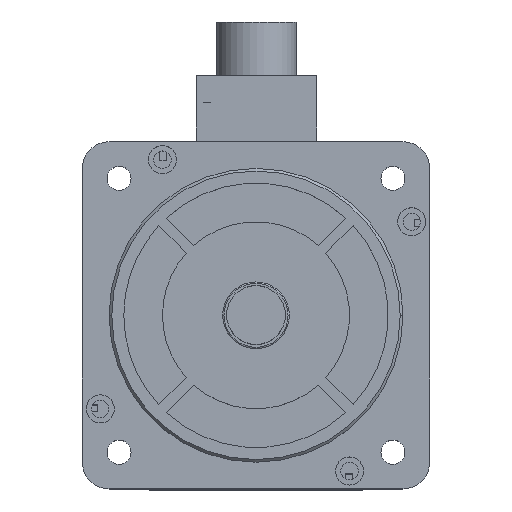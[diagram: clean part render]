
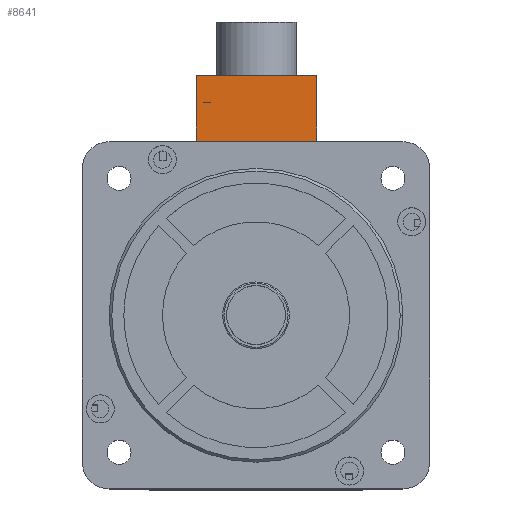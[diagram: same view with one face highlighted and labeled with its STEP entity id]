
A CAD part, top view. The second image highlights one B-rep face of the part: STEP entity #8641.
In plain terms, the highlighted planar face has unit normal (0, 0, 1) as drawn and (0, -1, 0) by its records, which use the part's own axes.
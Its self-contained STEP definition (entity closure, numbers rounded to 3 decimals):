
#747 = VERTEX_POINT ( 'NONE', #18959 ) ;
#796 = DIRECTION ( 'NONE',  ( -1., 0., 0. ) ) ;
#1012 = EDGE_CURVE ( 'NONE', #4391, #8146, #10276, .T. ) ;
#2018 = CARTESIAN_POINT ( 'NONE',  ( 45., 0., -25. ) ) ;
#2449 = ORIENTED_EDGE ( 'NONE', *, *, #2756, .T. ) ;
#2489 = PLANE ( 'NONE',  #14939 ) ;
#2756 = EDGE_CURVE ( 'NONE', #747, #8146, #11403, .T. ) ;
#3271 = EDGE_CURVE ( 'NONE', #3281, #747, #12925, .T. ) ;
#3281 = VERTEX_POINT ( 'NONE', #12121 ) ;
#3739 = VECTOR ( 'NONE', #796, 1000. ) ;
#4187 = DIRECTION ( 'NONE',  ( 0., 0., -1. ) ) ;
#4391 = VERTEX_POINT ( 'NONE', #14731 ) ;
#6567 = CARTESIAN_POINT ( 'NONE',  ( 0., 0., -25. ) ) ;
#8110 = ORIENTED_EDGE ( 'NONE', *, *, #1012, .F. ) ;
#8146 = VERTEX_POINT ( 'NONE', #24383 ) ;
#8585 = EDGE_CURVE ( 'NONE', #4391, #3281, #23168, .T. ) ;
#8641 = ADVANCED_FACE ( 'NONE', ( #17766 ), #2489, .T. ) ;
#10036 = DIRECTION ( 'NONE',  ( 0., 0., -1. ) ) ;
#10276 = LINE ( 'NONE', #2018, #21217 ) ;
#10941 = ORIENTED_EDGE ( 'NONE', *, *, #8585, .T. ) ;
#11403 = LINE ( 'NONE', #12266, #23050 ) ;
#12121 = CARTESIAN_POINT ( 'NONE',  ( 0., 0., 0. ) ) ;
#12266 = CARTESIAN_POINT ( 'NONE',  ( 0., 0., -25. ) ) ;
#12925 = LINE ( 'NONE', #22321, #13258 ) ;
#13258 = VECTOR ( 'NONE', #4187, 1000. ) ;
#14520 = DIRECTION ( 'NONE',  ( 1., 0., 0. ) ) ;
#14731 = CARTESIAN_POINT ( 'NONE',  ( 45., 0., 0. ) ) ;
#14939 = AXIS2_PLACEMENT_3D ( 'NONE', #6567, #16582, #18384 ) ;
#16582 = DIRECTION ( 'NONE',  ( 0., -1., 0. ) ) ;
#17766 = FACE_OUTER_BOUND ( 'NONE', #22623, .T. ) ;
#18384 = DIRECTION ( 'NONE',  ( 0., 0., -1. ) ) ;
#18959 = CARTESIAN_POINT ( 'NONE',  ( 0., 0., -25. ) ) ;
#20569 = ORIENTED_EDGE ( 'NONE', *, *, #3271, .T. ) ;
#21217 = VECTOR ( 'NONE', #10036, 1000. ) ;
#22321 = CARTESIAN_POINT ( 'NONE',  ( 0., 0., -25. ) ) ;
#22623 = EDGE_LOOP ( 'NONE', ( #10941, #20569, #2449, #8110 ) ) ;
#23050 = VECTOR ( 'NONE', #14520, 1000. ) ;
#23168 = LINE ( 'NONE', #24827, #3739 ) ;
#24383 = CARTESIAN_POINT ( 'NONE',  ( 45., 0., -25. ) ) ;
#24827 = CARTESIAN_POINT ( 'NONE',  ( 0., 0., 0. ) ) ;
